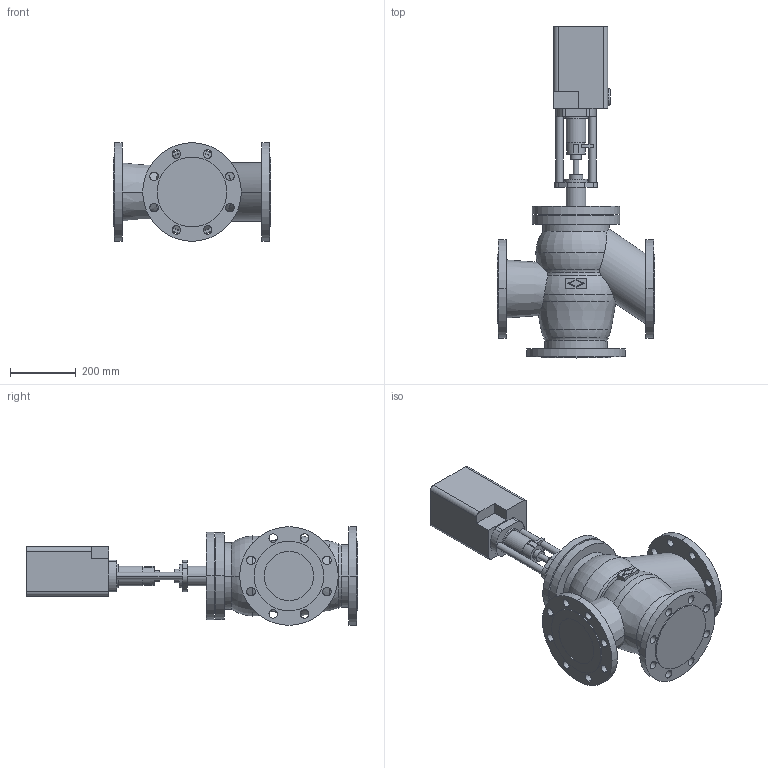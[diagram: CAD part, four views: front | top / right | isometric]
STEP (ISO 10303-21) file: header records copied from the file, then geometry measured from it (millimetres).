
FILE_DESCRIPTION(('OneSpaceDesigner STEP Export'),'2;1');
FILE_NAME('c000000398.stp','2006-09-19T11:48:52',(''),(''),'OneSpace Designer STEP processor for AP214 (Solid Model)','OneSpace Designer 13.20A 18-Aug-2005 (C) CoCreate Software GmbH','');
FILE_SCHEMA(('AUTOMOTIVE_DESIGN { 1 0 10303 214 1 1 1 1 }'));
Length unit declared in the file: millimetre
Products named in the file (2): 1; 2
Bounding box: 480 x 1010 x 300 mm (x, y, z)
Volume: 35800340.3 mm3; surface area: 1274127.4 mm2
Topology: 2 solids, 2 shells, 214 faces, 539 edges, 355 vertices
Faces by surface type: cylinder 112, plane 80, torus 18, cone 4
Entity records: 6027 total; most frequent: CARTESIAN_POINT 1216, ORIENTED_EDGE 1078, DIRECTION 869, EDGE_CURVE 539, VERTEX_POINT 355, AXIS2_PLACEMENT_3D 316, EDGE_LOOP 288, VECTOR 237
